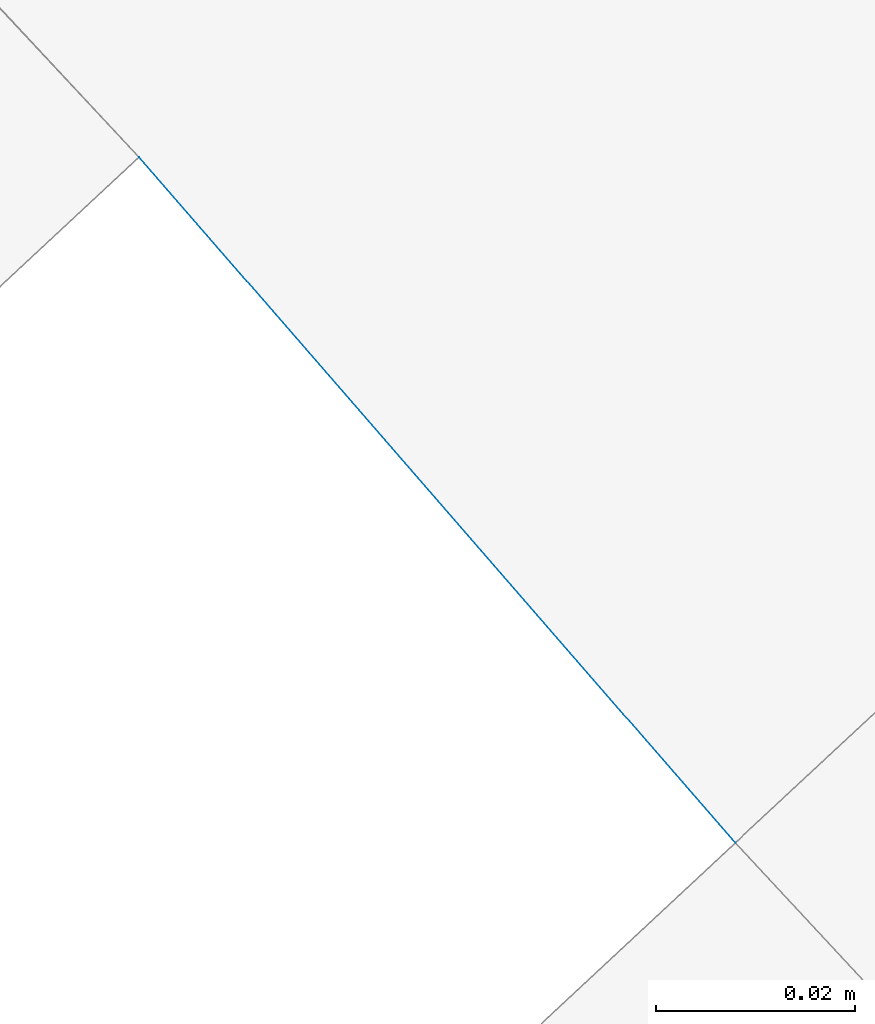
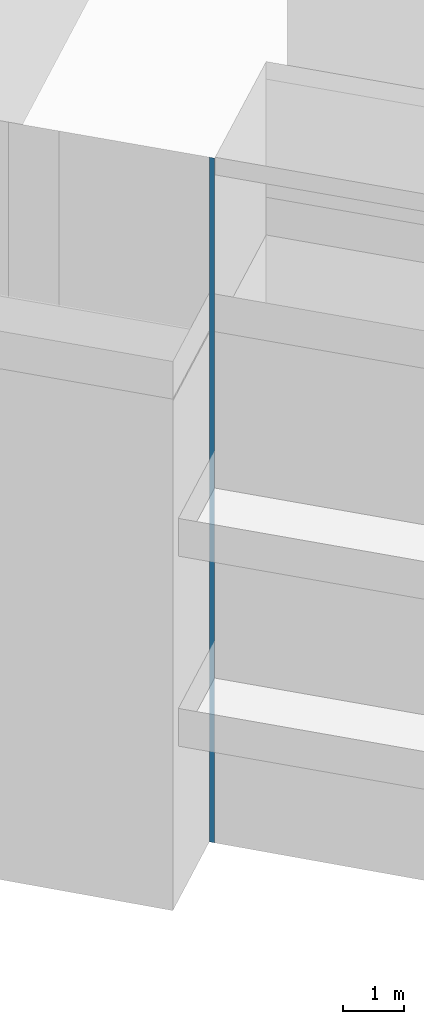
# Not in any storey, part 15 of 136: 1 wall.
"""IFC2X3 building model written with IfcOpenShell, lengths in metres."""

from ifc_helpers import new_model, entity, si_unit, converted_unit, origin, place, context, subcontext, project, spatial, face_set, surface_model, element, save


model = new_model("IFC2X3")

# Units and contexts
model_context = context("Model", 3, precision=1e-05, world=origin())
body_context = subcontext(model_context, "Body", "Model", "MODEL_VIEW")
ifc_project = project(units=[converted_unit("PLANEANGLEUNIT", "DEGREE", entity("IfcRatioMeasure", 0.0174532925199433), si_unit("PLANEANGLEUNIT", "RADIAN"), dimensions=[0, 0, 0, 0, 0, 0, 0]), si_unit("AREAUNIT", "SQUARE_METRE"), si_unit("LENGTHUNIT", "METRE")], contexts=[model_context])

# Site, building
site_placement = place(None, origin())
site = spatial("IfcSite", under=ifc_project, at=site_placement, Name="_site", CompositionType="ELEMENT")
building_placement = place(site_placement, origin())
building = spatial("IfcBuilding", under=site, at=building_placement, Name="_building", CompositionType="ELEMENT")

# Wall
wall_placement = place(building_placement, origin())
element("IfcWall", 1, at=wall_placement, inside=building, Name="Wall", context=body_context, shape_type="SurfaceModel", body=[
    surface_model("IfcFaceBasedSurfaceModel", [(112.38, -8.729, 51.74), (112.32, -8.66, 51.74), (112.32, -8.66, 38.121), (112.38, -8.729, 38.12)], [face_set([[[0, 1, 2, 3]]])]),
])

save(model, "model.ifc")
